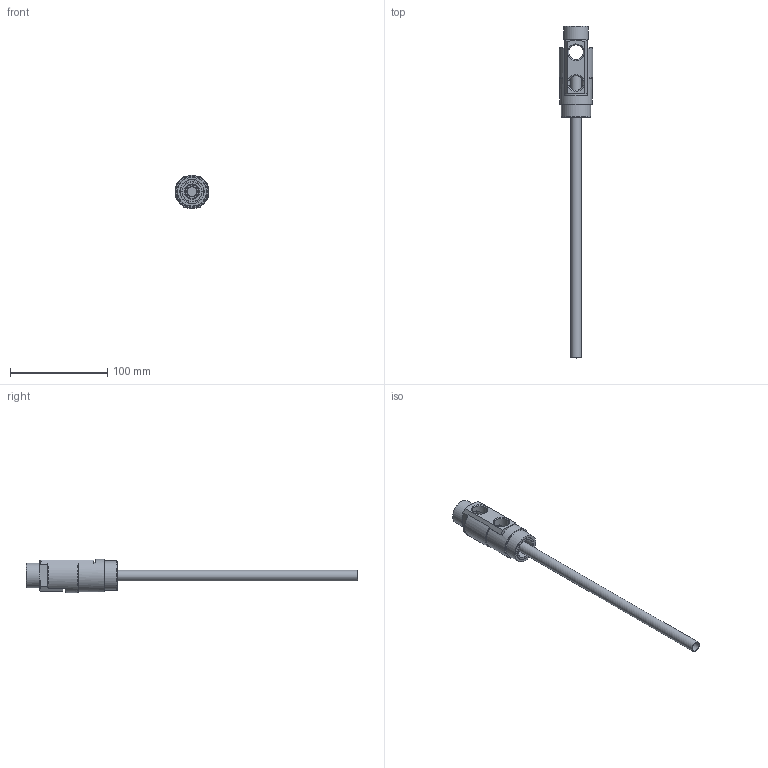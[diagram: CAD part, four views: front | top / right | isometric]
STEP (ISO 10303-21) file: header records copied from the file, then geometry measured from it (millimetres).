
FILE_DESCRIPTION(/* description */ (''),/* implementation_level */ '2;1');
FILE_NAME(/* name */ 'C:/Users/drich/Desktop/SC121N-6-RL v1.step',/* time_stamp */ '2020-01-15T19:44:40-06:00',/* author */ (''),/* organization */ (''),/* preprocessor_version */ 'ST-DEVELOPER v18',/* originating_system */ 'Autodesk Translation Framework v8.12.0.6',/* authorisation */ '');
FILE_SCHEMA (('AUTOMOTIVE_DESIGN { 1 0 10303 214 3 1 1 }'));
Length unit declared in the file: inch
Products named in the file (5): SC121N-6-RL; SC121H-6-RL HEAD; SC121H-4 Sleeve; PT38-437-12; BF-12
Assembly tree (4 placements, depth 3):
  SC121N-6-RL
    SC121H-6-RL HEAD
      SC121H-4 Sleeve
    PT38-437-12
    BF-12
Bounding box: 34.92 x 341.3 x 34.12 mm (x, y, z)
Volume: 52823.3 mm3; surface area: 48462.4 mm2
Topology: 4 solids, 4 shells, 122 faces, 333 edges, 225 vertices
Faces by surface type: plane 66, cylinder 25, cone 18, torus 13
Full cylindrical faces by diameter (mm): 10.084 x1, 10.82 x1, 13.868 x1, 15.173 x4, 15.875 x1, 16.537 x1, 18.901 x1, 20.066 x1, 20.813 x1, 24.384 x1, 25.4 x1, 27.432 x1, 30.15 x1, 33.325 x1
Entity records: 4313 total; most frequent: CARTESIAN_POINT 1033, DIRECTION 683, ORIENTED_EDGE 666, EDGE_CURVE 333, AXIS2_PLACEMENT_3D 272, VERTEX_POINT 225, EDGE_LOOP 140, LINE 139
